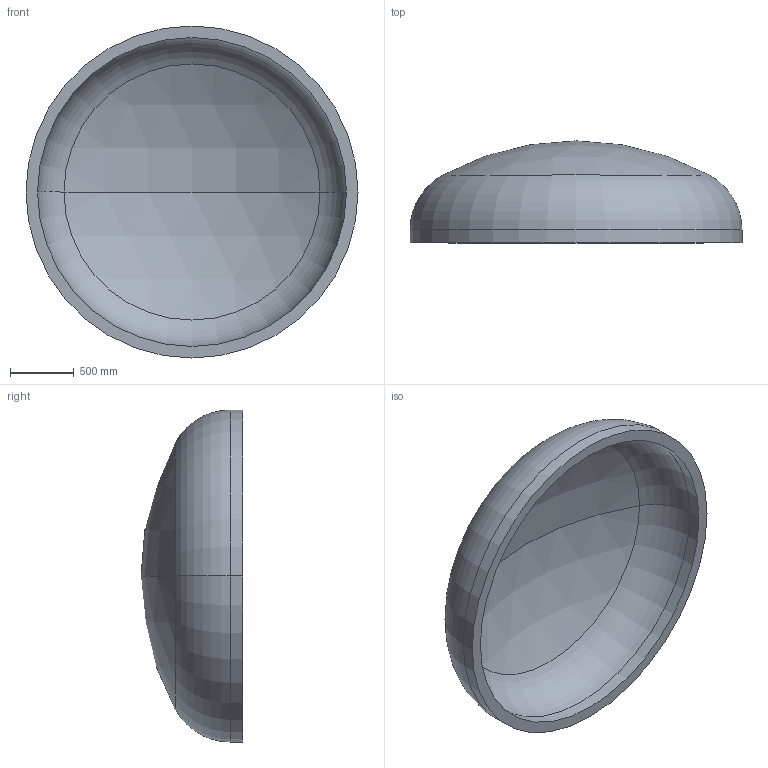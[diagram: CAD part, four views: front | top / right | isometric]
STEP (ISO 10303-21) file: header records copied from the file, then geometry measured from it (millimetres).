
FILE_DESCRIPTION (( 'STEP AP203' ), '1' );
FILE_NAME ('DIN 28013 Korbbogenform_-_Boden DIN 28013 - 2600 x 100 - I - s=90.step', '2016-07-01T16:28:29', ( '' ), ( '' ), 'SwSTEP 2.0', 'SolidWorks 2013', '' );
FILE_SCHEMA (( 'CONFIG_CONTROL_DESIGN' ));
Length unit declared in the file: millimetre
Products named in the file (1): DIN 28013 Korbbogenform_-_Boden DIN 28013 - 2600 x 100 - I - s=90
Bounding box: 2600 x 798.16 x 2600 mm (x, y, z)
Volume: 703484408.5 mm3; surface area: 16359632.4 mm2
Topology: 1 solids, 1 shells, 13 faces, 24 edges, 14 vertices
Faces by surface type: torus 4, cylinder 4, sphere 4, plane 1
Entity records: 407 total; most frequent: DIRECTION 72, CARTESIAN_POINT 52, ORIENTED_EDGE 48, AXIS2_PLACEMENT_3D 34, EDGE_CURVE 24, CIRCLE 20, EDGE_LOOP 14, VERTEX_POINT 14
